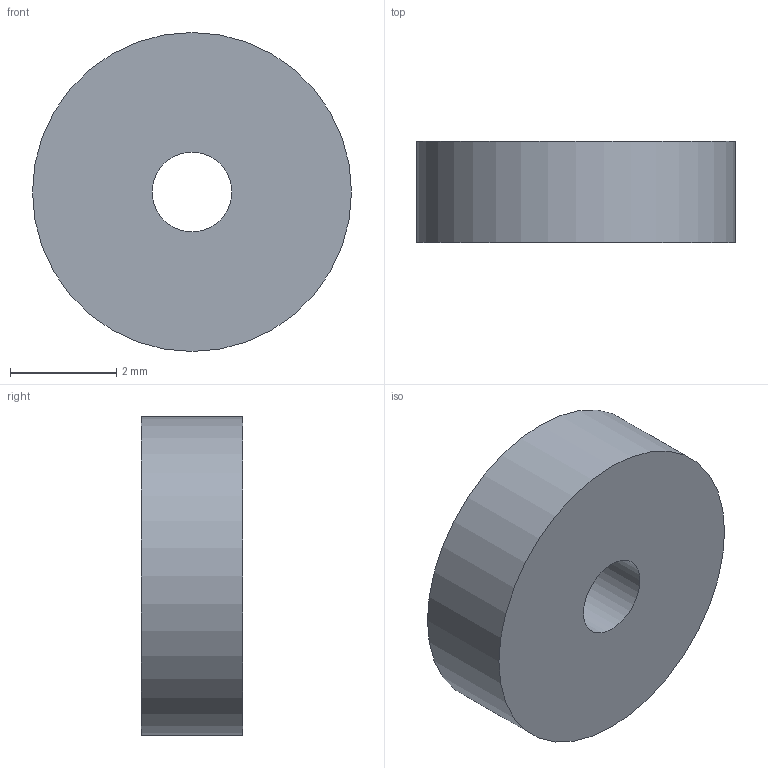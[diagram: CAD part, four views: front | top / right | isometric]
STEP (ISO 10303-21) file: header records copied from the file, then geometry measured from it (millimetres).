
FILE_DESCRIPTION(('Open CASCADE Model'),'2;1');
FILE_NAME('mic_duct_foam_gasket_2_3to1_9','2026-09-08T13:43:18',( 'Author'),('Open CASCADE'),'Open CASCADE STEP processor 7.8', 'build123d','Unknown');
FILE_SCHEMA(('AUTOMOTIVE_DESIGN { 1 0 10303 214 1 1 1 1 }'));
Length unit declared in the file: millimetre
Products named in the file (2): =>[0:1:1:2]; mic_duct_foam_gasket_2_3to1_9
Assembly tree (1 placements, depth 2):
  =>[0:1:1:2]
    mic_duct_foam_gasket_2_3to1_9
Bounding box: 6 x 1.9 x 6 mm (x, y, z)
Volume: 50.4 mm3; surface area: 97.8 mm2
Topology: 1 solids, 1 shells, 4 faces, 6 edges, 4 vertices
Faces by surface type: cylinder 2, plane 2
Full cylindrical faces by diameter (mm): 1.5 x1, 6 x1
Entity records: 204 total; most frequent: DIRECTION 34, CARTESIAN_POINT 28, ORIENTED_EDGE 12, PCURVE 12, DEFINITIONAL_REPRESENTATION 12, AXIS2_PLACEMENT_3D 10, LINE 10, VECTOR 10
